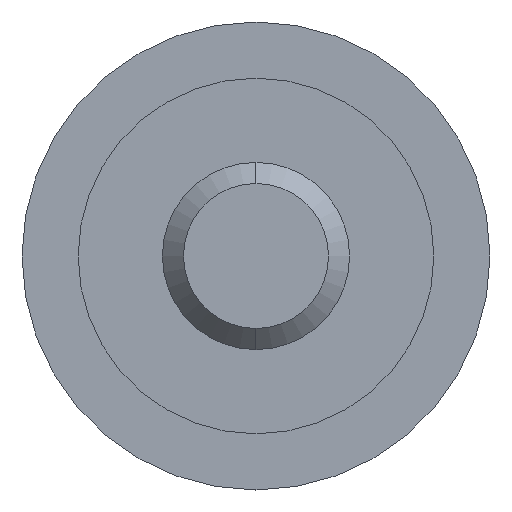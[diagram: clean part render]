
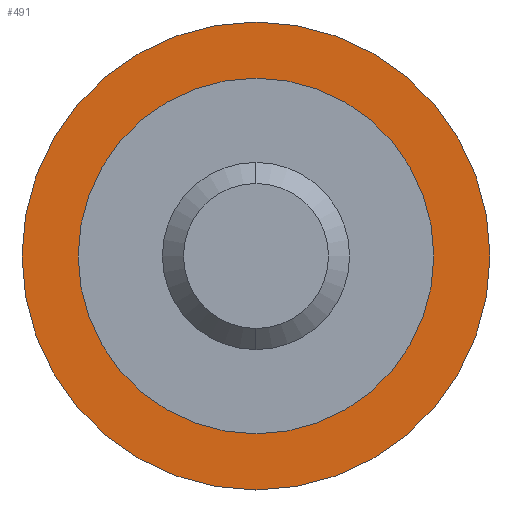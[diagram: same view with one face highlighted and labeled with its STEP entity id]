
A CAD part, left-side view. The second image highlights one B-rep face of the part: STEP entity #491.
In plain terms, the highlighted planar face has unit normal (-1, 0, 0).
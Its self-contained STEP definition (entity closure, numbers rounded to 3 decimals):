
#32 = CARTESIAN_POINT ( 'NONE',  ( -10., 0., -5. ) ) ;
#54 = CIRCLE ( 'NONE', #433, 5. ) ;
#72 = DIRECTION ( 'NONE',  ( 0., 0., 1. ) ) ;
#80 = VERTEX_POINT ( 'NONE', #194 ) ;
#81 = EDGE_CURVE ( 'NONE', #574, #287, #228, .T. ) ;
#82 = DIRECTION ( 'NONE',  ( -1., 0., 0. ) ) ;
#86 = ORIENTED_EDGE ( 'NONE', *, *, #538, .F. ) ;
#117 = EDGE_CURVE ( 'NONE', #641, #80, #544, .T. ) ;
#127 = AXIS2_PLACEMENT_3D ( 'NONE', #490, #82, #598 ) ;
#166 = ORIENTED_EDGE ( 'NONE', *, *, #117, .T. ) ;
#184 = FACE_OUTER_BOUND ( 'NONE', #249, .T. ) ;
#194 = CARTESIAN_POINT ( 'NONE',  ( -10., 0., 5. ) ) ;
#203 = DIRECTION ( 'NONE',  ( -1., 0., 0. ) ) ;
#205 = DIRECTION ( 'NONE',  ( -1., 0., 0. ) ) ;
#211 = DIRECTION ( 'NONE',  ( 0., 0., 1. ) ) ;
#228 = CIRCLE ( 'NONE', #603, 3.8 ) ;
#249 = EDGE_LOOP ( 'NONE', ( #626, #166 ) ) ;
#259 = ORIENTED_EDGE ( 'NONE', *, *, #81, .F. ) ;
#266 = CARTESIAN_POINT ( 'NONE',  ( -10., 0., 0. ) ) ;
#281 = DIRECTION ( 'NONE',  ( 1., 0., 0. ) ) ;
#285 = AXIS2_PLACEMENT_3D ( 'NONE', #286, #281, #430 ) ;
#286 = CARTESIAN_POINT ( 'NONE',  ( -10., 3.8, 0. ) ) ;
#287 = VERTEX_POINT ( 'NONE', #302 ) ;
#302 = CARTESIAN_POINT ( 'NONE',  ( -10., 0., -3.8 ) ) ;
#304 = EDGE_CURVE ( 'NONE', #80, #641, #54, .T. ) ;
#332 = CIRCLE ( 'NONE', #127, 3.8 ) ;
#339 = DIRECTION ( 'NONE',  ( 0., 0., 1. ) ) ;
#380 = EDGE_LOOP ( 'NONE', ( #259, #86 ) ) ;
#404 = CARTESIAN_POINT ( 'NONE',  ( -10., 0., 3.8 ) ) ;
#430 = DIRECTION ( 'NONE',  ( 0., 0., -1. ) ) ;
#433 = AXIS2_PLACEMENT_3D ( 'NONE', #266, #646, #72 ) ;
#490 = CARTESIAN_POINT ( 'NONE',  ( -10., 0., 0. ) ) ;
#491 = ADVANCED_FACE ( 'NONE', ( #652, #184 ), #540, .F. ) ;
#538 = EDGE_CURVE ( 'NONE', #287, #574, #332, .T. ) ;
#540 = PLANE ( 'NONE',  #285 ) ;
#544 = CIRCLE ( 'NONE', #614, 5. ) ;
#548 = CARTESIAN_POINT ( 'NONE',  ( -10., 0., 0. ) ) ;
#550 = CARTESIAN_POINT ( 'NONE',  ( -10., 0., 0. ) ) ;
#574 = VERTEX_POINT ( 'NONE', #404 ) ;
#598 = DIRECTION ( 'NONE',  ( 0., 0., 1. ) ) ;
#603 = AXIS2_PLACEMENT_3D ( 'NONE', #550, #203, #211 ) ;
#614 = AXIS2_PLACEMENT_3D ( 'NONE', #548, #205, #339 ) ;
#626 = ORIENTED_EDGE ( 'NONE', *, *, #304, .T. ) ;
#641 = VERTEX_POINT ( 'NONE', #32 ) ;
#646 = DIRECTION ( 'NONE',  ( -1., 0., 0. ) ) ;
#652 = FACE_BOUND ( 'NONE', #380, .T. ) ;
